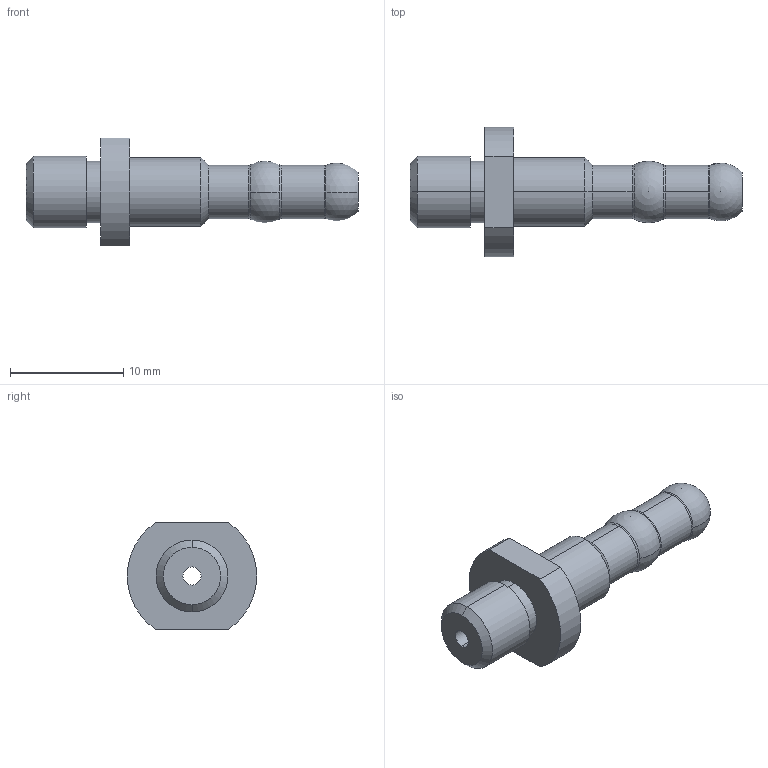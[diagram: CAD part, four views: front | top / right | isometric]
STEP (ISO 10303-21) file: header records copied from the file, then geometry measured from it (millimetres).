
FILE_DESCRIPTION (( 'STEP AP214' ), '1' );
FILE_NAME ('MOD91098 RA.STEP', '2021-12-08T19:09:21', ( '' ), ( '' ), 'SwSTEP 2.0', 'SolidWorks 2020', '' );
FILE_SCHEMA (( 'AUTOMOTIVE_DESIGN' ));
Length unit declared in the file: inch
Products named in the file (1): MOD91098 RA
Bounding box: 29.33 x 11.43 x 9.53 mm (x, y, z)
Volume: 814.6 mm3; surface area: 879.8 mm2
Topology: 1 solids, 1 shells, 37 faces, 92 edges, 56 vertices
Faces by surface type: cylinder 14, plane 7, cone 6, torus 6, sphere 4
Entity records: 1084 total; most frequent: DIRECTION 214, CARTESIAN_POINT 170, ORIENTED_EDGE 164, AXIS2_PLACEMENT_3D 94, EDGE_CURVE 82, CIRCLE 56, VERTEX_POINT 50, EDGE_LOOP 42
